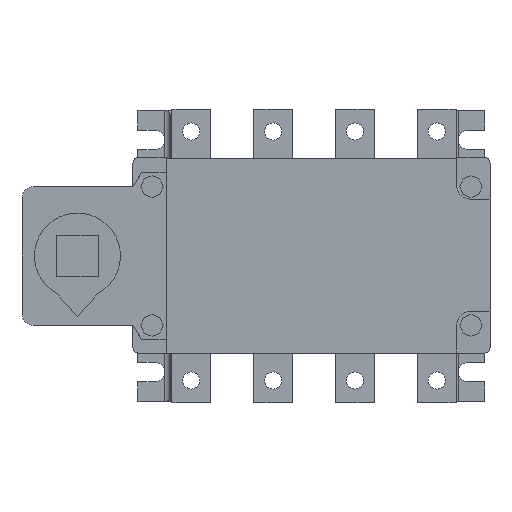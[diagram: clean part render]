
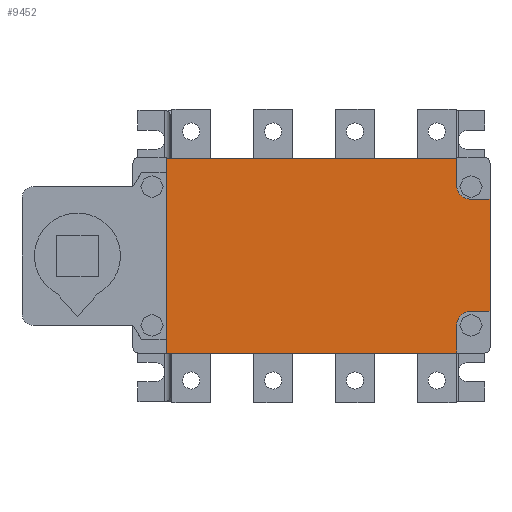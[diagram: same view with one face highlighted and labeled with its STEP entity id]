
A CAD part, front view. The second image highlights one B-rep face of the part: STEP entity #9452.
In plain terms, the highlighted planar face has unit normal (0, -1, 0).
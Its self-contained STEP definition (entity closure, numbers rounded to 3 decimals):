
#3231=DIRECTION('',(-1.,0.,0.));
#3232=VECTOR('',#3231,7.);
#3233=CARTESIAN_POINT('',(64.38,0.,-20.));
#3234=LINE('',#3233,#3232);
#3235=CARTESIAN_POINT('',(57.38,0.,-25.));
#3236=DIRECTION('',(0.,-1.,0.));
#3237=DIRECTION('',(0.,0.,1.));
#3238=AXIS2_PLACEMENT_3D('',#3235,#3236,#3237);
#3240=DIRECTION('',(0.,0.,1.));
#3241=VECTOR('',#3240,10.);
#3242=CARTESIAN_POINT('',(52.38,0.,-35.));
#3243=LINE('',#3242,#3241);
#3244=DIRECTION('',(-1.,0.,0.));
#3245=VECTOR('',#3244,104.76);
#3246=CARTESIAN_POINT('',(52.38,0.,-35.));
#3247=LINE('',#3246,#3245);
#3248=DIRECTION('',(0.,0.,1.));
#3249=VECTOR('',#3248,10.);
#3250=CARTESIAN_POINT('',(-52.38,0.,-35.));
#3251=LINE('',#3250,#3249);
#3252=CARTESIAN_POINT('',(-57.38,0.,-25.));
#3253=DIRECTION('',(0.,-1.,0.));
#3254=DIRECTION('',(1.,0.,0.));
#3255=AXIS2_PLACEMENT_3D('',#3252,#3253,#3254);
#3257=DIRECTION('',(1.,0.,0.));
#3258=VECTOR('',#3257,7.);
#3259=CARTESIAN_POINT('',(-64.38,0.,-20.));
#3260=LINE('',#3259,#3258);
#3261=DIRECTION('',(0.,0.,1.));
#3262=VECTOR('',#3261,40.491);
#3263=CARTESIAN_POINT('',(-64.38,0.,-20.));
#3264=LINE('',#3263,#3262);
#3265=DIRECTION('',(1.,0.,0.));
#3266=VECTOR('',#3265,7.);
#3267=CARTESIAN_POINT('',(-64.38,0.,20.491));
#3268=LINE('',#3267,#3266);
#3269=CARTESIAN_POINT('',(-57.38,0.,25.491));
#3270=DIRECTION('',(0.,-1.,0.));
#3271=DIRECTION('',(0.,0.,-1.));
#3272=AXIS2_PLACEMENT_3D('',#3269,#3270,#3271);
#3274=DIRECTION('',(0.,0.,-1.));
#3275=VECTOR('',#3274,9.509);
#3276=CARTESIAN_POINT('',(-52.38,0.,35.));
#3277=LINE('',#3276,#3275);
#3278=DIRECTION('',(1.,0.,0.));
#3279=VECTOR('',#3278,104.76);
#3280=CARTESIAN_POINT('',(-52.38,0.,35.));
#3281=LINE('',#3280,#3279);
#3282=DIRECTION('',(0.,0.,-1.));
#3283=VECTOR('',#3282,9.509);
#3284=CARTESIAN_POINT('',(52.38,0.,35.));
#3285=LINE('',#3284,#3283);
#3286=CARTESIAN_POINT('',(57.38,0.,25.491));
#3287=DIRECTION('',(0.,-1.,0.));
#3288=DIRECTION('',(-1.,0.,0.));
#3289=AXIS2_PLACEMENT_3D('',#3286,#3287,#3288);
#3291=DIRECTION('',(-1.,0.,0.));
#3292=VECTOR('',#3291,7.);
#3293=CARTESIAN_POINT('',(64.38,0.,20.491));
#3294=LINE('',#3293,#3292);
#3295=DIRECTION('',(0.,0.,-1.));
#3296=VECTOR('',#3295,40.491);
#3297=CARTESIAN_POINT('',(64.38,0.,20.491));
#3298=LINE('',#3297,#3296);
#3729=CARTESIAN_POINT('',(64.38,0.,-20.));
#3730=CARTESIAN_POINT('',(57.38,0.,-20.));
#3731=VERTEX_POINT('',#3729);
#3732=VERTEX_POINT('',#3730);
#3733=CARTESIAN_POINT('',(52.38,0.,-25.));
#3734=VERTEX_POINT('',#3733);
#3735=CARTESIAN_POINT('',(52.38,0.,-35.));
#3736=VERTEX_POINT('',#3735);
#3737=CARTESIAN_POINT('',(52.38,0.,35.));
#3738=CARTESIAN_POINT('',(52.38,0.,25.491));
#3739=VERTEX_POINT('',#3737);
#3740=VERTEX_POINT('',#3738);
#3741=CARTESIAN_POINT('',(57.38,0.,20.491));
#3742=VERTEX_POINT('',#3741);
#3743=CARTESIAN_POINT('',(64.38,0.,20.491));
#3744=VERTEX_POINT('',#3743);
#3745=CARTESIAN_POINT('',(-52.38,0.,-35.));
#3746=CARTESIAN_POINT('',(-52.38,0.,-25.));
#3747=VERTEX_POINT('',#3745);
#3748=VERTEX_POINT('',#3746);
#3749=CARTESIAN_POINT('',(-57.38,0.,-20.));
#3750=VERTEX_POINT('',#3749);
#3751=CARTESIAN_POINT('',(-64.38,0.,-20.));
#3752=VERTEX_POINT('',#3751);
#3753=CARTESIAN_POINT('',(-64.38,0.,20.491));
#3754=CARTESIAN_POINT('',(-57.38,0.,20.491));
#3755=VERTEX_POINT('',#3753);
#3756=VERTEX_POINT('',#3754);
#3757=CARTESIAN_POINT('',(-52.38,0.,25.491));
#3758=VERTEX_POINT('',#3757);
#3759=CARTESIAN_POINT('',(-52.38,0.,35.));
#3760=VERTEX_POINT('',#3759);
#9419=CARTESIAN_POINT('',(0.,0.,0.));
#9420=DIRECTION('',(0.,1.,0.));
#9421=DIRECTION('',(1.,0.,0.));
#9422=AXIS2_PLACEMENT_3D('',#9419,#9420,#9421);
#9423=PLANE('',#9422);
#9424=ORIENTED_EDGE('',*,*,#9410,.T.);
#9426=ORIENTED_EDGE('',*,*,#9425,.T.);
#9428=ORIENTED_EDGE('',*,*,#9427,.F.);
#9429=ORIENTED_EDGE('',*,*,#7861,.T.);
#9430=ORIENTED_EDGE('',*,*,#6980,.T.);
#9432=ORIENTED_EDGE('',*,*,#9431,.T.);
#9434=ORIENTED_EDGE('',*,*,#9433,.F.);
#9436=ORIENTED_EDGE('',*,*,#9435,.T.);
#9438=ORIENTED_EDGE('',*,*,#9437,.T.);
#9440=ORIENTED_EDGE('',*,*,#9439,.T.);
#9441=ORIENTED_EDGE('',*,*,#6973,.F.);
#9442=ORIENTED_EDGE('',*,*,#7064,.T.);
#9444=ORIENTED_EDGE('',*,*,#9443,.T.);
#9446=ORIENTED_EDGE('',*,*,#9445,.T.);
#9448=ORIENTED_EDGE('',*,*,#9447,.F.);
#9449=ORIENTED_EDGE('',*,*,#9394,.T.);
#9450=EDGE_LOOP('',(#9424,#9426,#9428,#9429,#9430,#9432,#9434,#9436,#9438,#9440,
#9441,#9442,#9444,#9446,#9448,#9449));
#9451=FACE_OUTER_BOUND('',#9450,.F.);
#3239=CIRCLE('',#3238,5.);
#3256=CIRCLE('',#3255,5.);
#3273=CIRCLE('',#3272,5.);
#3290=CIRCLE('',#3289,5.);
#6973=EDGE_CURVE('',#3760,#3758,#3277,.T.);
#6980=EDGE_CURVE('',#3747,#3748,#3251,.T.);
#7064=EDGE_CURVE('',#3760,#3739,#3281,.T.);
#7861=EDGE_CURVE('',#3736,#3747,#3247,.T.);
#9394=EDGE_CURVE('',#3744,#3731,#3298,.T.);
#9410=EDGE_CURVE('',#3731,#3732,#3234,.T.);
#9425=EDGE_CURVE('',#3732,#3734,#3239,.T.);
#9427=EDGE_CURVE('',#3736,#3734,#3243,.T.);
#9431=EDGE_CURVE('',#3748,#3750,#3256,.T.);
#9433=EDGE_CURVE('',#3752,#3750,#3260,.T.);
#9435=EDGE_CURVE('',#3752,#3755,#3264,.T.);
#9437=EDGE_CURVE('',#3755,#3756,#3268,.T.);
#9439=EDGE_CURVE('',#3756,#3758,#3273,.T.);
#9443=EDGE_CURVE('',#3739,#3740,#3285,.T.);
#9445=EDGE_CURVE('',#3740,#3742,#3290,.T.);
#9447=EDGE_CURVE('',#3744,#3742,#3294,.T.);
#9452=ADVANCED_FACE('',(#9451),#9423,.F.);
